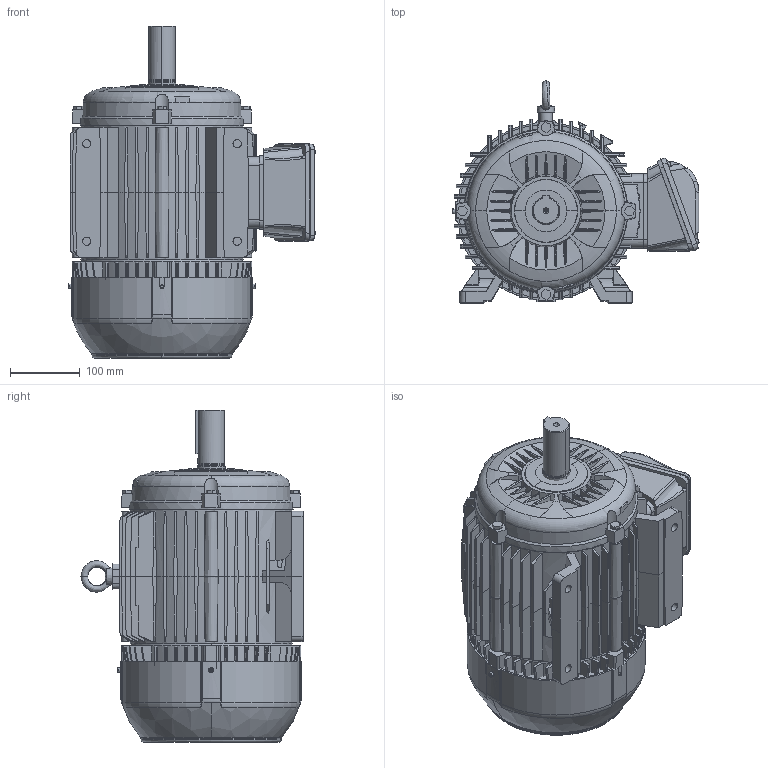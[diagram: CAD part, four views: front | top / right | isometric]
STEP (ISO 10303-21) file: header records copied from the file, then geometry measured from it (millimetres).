
FILE_DESCRIPTION (( 'STEP AP203' ), '1' );
FILE_NAME ('L132S_RIGHT.STEP', '2016-09-20T13:25:53', ( 'support' ), ( 'Microsoft' ), 'SwSTEP 2.0', 'SolidWorks 2016', '' );
FILE_SCHEMA (( 'CONFIG_CONTROL_DESIGN' ));
Length unit declared in the file: millimetre
Products named in the file (1): L132S_RIGHT
Bounding box: 354.05 x 319 x 476.9 mm (x, y, z)
Volume: 21918614.6 mm3; surface area: 1145906.4 mm2
Topology: 16 solids, 16 shells, 3301 faces, 8260 edges, 5242 vertices
Faces by surface type: plane 2203, cylinder 477, bspline 365, cone 209, torus 35, sphere 12
Entity records: 107830 total; most frequent: CARTESIAN_POINT 33794, ORIENTED_EDGE 16476, DIRECTION 13560, EDGE_CURVE 8238, VERTEX_POINT 5242, LINE 5228, VECTOR 5228, AXIS2_PLACEMENT_3D 4166
